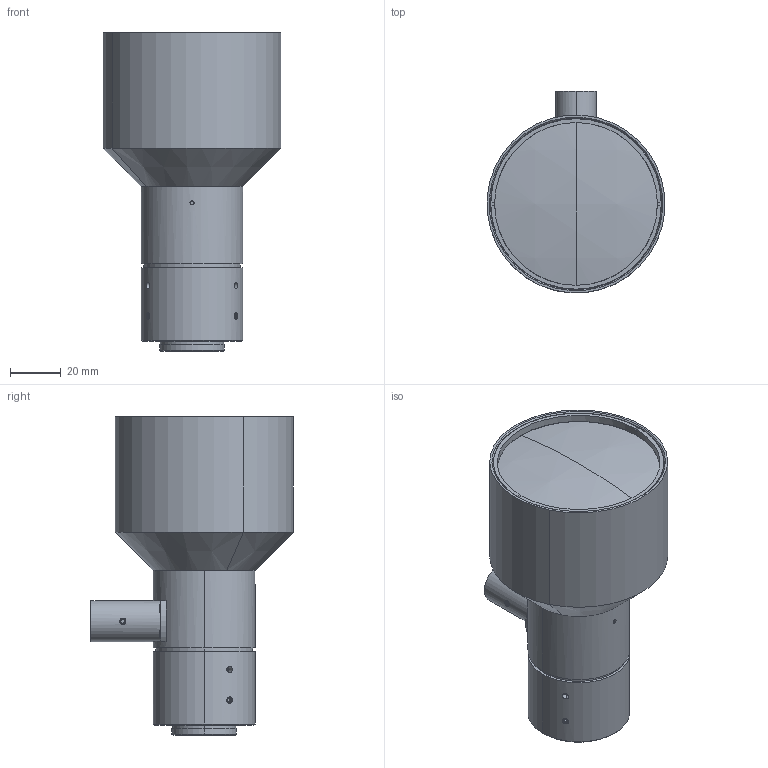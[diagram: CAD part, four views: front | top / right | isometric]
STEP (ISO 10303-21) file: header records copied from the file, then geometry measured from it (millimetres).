
FILE_DESCRIPTION (( 'STEP AP214' ), '1' );
FILE_NAME ('MML02-220D.STEP', '2026-02-18T00:41:12', ( '' ), ( '' ), 'SwSTEP 2.0', 'SolidWorks 2025', '' );
FILE_SCHEMA (( 'AUTOMOTIVE_DESIGN' ));
Length unit declared in the file: millimetre
Products named in the file (1): MML02-220D
Bounding box: 69.84 x 79.42 x 125.36 mm (x, y, z)
Volume: 284380.7 mm3; surface area: 30428.8 mm2
Topology: 1 solids, 1 shells, 384 faces, 971 edges, 614 vertices
Faces by surface type: plane 174, cone 133, cylinder 57, sphere 12, torus 8
Entity records: 12330 total; most frequent: CARTESIAN_POINT 3177, DIRECTION 1931, ORIENTED_EDGE 1926, EDGE_CURVE 963, AXIS2_PLACEMENT_3D 788, VERTEX_POINT 614, EDGE_LOOP 419, CIRCLE 403
